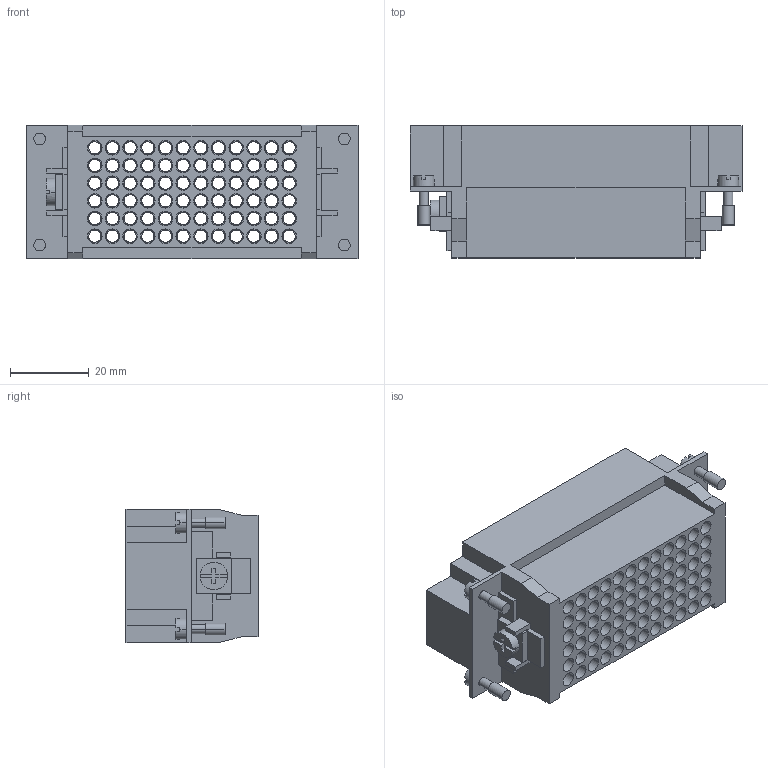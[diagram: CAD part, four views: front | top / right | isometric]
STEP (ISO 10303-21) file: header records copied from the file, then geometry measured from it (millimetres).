
FILE_DESCRIPTION (( 'STEP AP203' ), '1' );
FILE_NAME ('366484.STEP', '2025-06-27T12:12:30', ( '' ), ( '' ), 'SwSTEP 2.0', 'SolidWorks 2018', '' );
FILE_SCHEMA (( 'CONFIG_CONTROL_DESIGN' ));
Length unit declared in the file: millimetre
Products named in the file (1): 366484
Bounding box: 84.5 x 33.6 x 34 mm (x, y, z)
Volume: 34415.5 mm3; surface area: 30665.8 mm2
Topology: 1 solids, 1 shells, 809 faces, 1944 edges, 1296 vertices
Faces by surface type: cylinder 460, plane 349
Entity records: 24319 total; most frequent: DIRECTION 4520, CARTESIAN_POINT 4050, ORIENTED_EDGE 3888, EDGE_CURVE 1944, AXIS2_PLACEMENT_3D 1766, VERTEX_POINT 1296, EDGE_LOOP 1112, VECTOR 988
